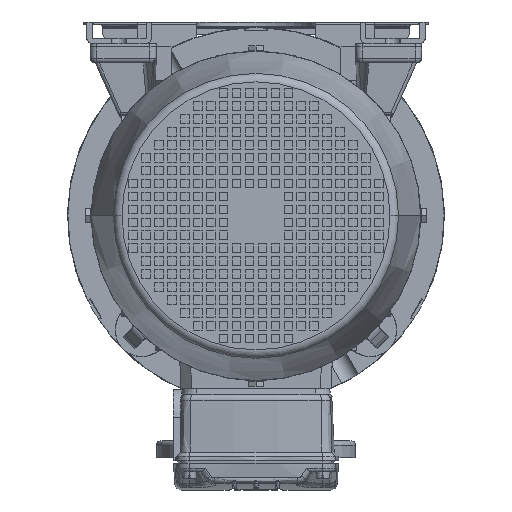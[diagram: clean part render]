
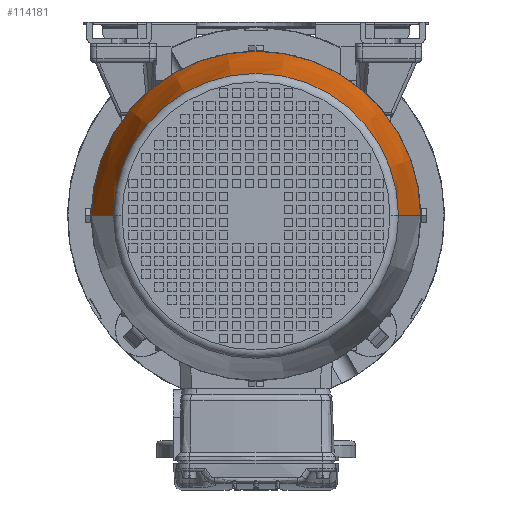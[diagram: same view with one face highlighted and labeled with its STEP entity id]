
A CAD part, front view. The second image highlights one B-rep face of the part: STEP entity #114181.
In plain terms, the highlighted conical face has half-angle 11 degrees and reference radius 132.258 mm.
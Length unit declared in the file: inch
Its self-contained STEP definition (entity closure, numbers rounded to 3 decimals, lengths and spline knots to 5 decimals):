
#10473 = AXIS2_PLACEMENT_3D ( 'NONE', #60133, #120233, #105463 ) ;
#17503 = DIRECTION ( 'NONE',  ( 0., 0., 1. ) ) ;
#20938 = EDGE_CURVE ( 'NONE', #99991, #35649, #76584, .T. ) ;
#22455 = LINE ( 'NONE', #159403, #96768 ) ;
#24424 = DIRECTION ( 'NONE',  ( 0.191, 0., 0.982 ) ) ;
#27686 = DIRECTION ( 'NONE',  ( 1., 0., 0. ) ) ;
#29053 = EDGE_LOOP ( 'NONE', ( #125686, #185799, #68319, #194793 ) ) ;
#35649 = VERTEX_POINT ( 'NONE', #179637 ) ;
#39838 = VERTEX_POINT ( 'NONE', #144933 ) ;
#60133 = CARTESIAN_POINT ( 'NONE',  ( 0., 0., -6.96516 ) ) ;
#62220 = VERTEX_POINT ( 'NONE', #108178 ) ;
#68319 = ORIENTED_EDGE ( 'NONE', *, *, #134853, .T. ) ;
#76584 = CIRCLE ( 'NONE', #10473, 6.01639 ) ;
#78296 = CONICAL_SURFACE ( 'NONE', #188380, 5.20702, 0.192 ) ;
#89674 = CARTESIAN_POINT ( 'NONE',  ( -6.01639, 0., -6.96516 ) ) ;
#96768 = VECTOR ( 'NONE', #24424, 39.37008 ) ;
#99991 = VERTEX_POINT ( 'NONE', #89674 ) ;
#105463 = DIRECTION ( 'NONE',  ( 1., 0., 0. ) ) ;
#108178 = CARTESIAN_POINT ( 'NONE',  ( -5.20702, 0., -11.12899 ) ) ;
#110029 = DIRECTION ( 'NONE',  ( -0.191, 0., 0.982 ) ) ;
#114181 = ADVANCED_FACE ( 'NONE', ( #161688 ), #78296, .T. ) ;
#116357 = CARTESIAN_POINT ( 'NONE',  ( 0., 0., -11.12899 ) ) ;
#118746 = EDGE_CURVE ( 'NONE', #62220, #39838, #130073, .T. ) ;
#119005 = DIRECTION ( 'NONE',  ( 1., 0., 0. ) ) ;
#120233 = DIRECTION ( 'NONE',  ( 0., 0., 1. ) ) ;
#125686 = ORIENTED_EDGE ( 'NONE', *, *, #176772, .F. ) ;
#130073 = CIRCLE ( 'NONE', #155297, 5.20702 ) ;
#133074 = DIRECTION ( 'NONE',  ( 0., 0., 1. ) ) ;
#134853 = EDGE_CURVE ( 'NONE', #39838, #35649, #22455, .T. ) ;
#144933 = CARTESIAN_POINT ( 'NONE',  ( 5.20702, 0., -11.12899 ) ) ;
#152434 = CARTESIAN_POINT ( 'NONE',  ( -5.20702, 0., -11.12899 ) ) ;
#153413 = LINE ( 'NONE', #152434, #169975 ) ;
#155297 = AXIS2_PLACEMENT_3D ( 'NONE', #165288, #17503, #119005 ) ;
#159403 = CARTESIAN_POINT ( 'NONE',  ( 5.20702, 0., -11.12899 ) ) ;
#161688 = FACE_OUTER_BOUND ( 'NONE', #29053, .T. ) ;
#165288 = CARTESIAN_POINT ( 'NONE',  ( 0., 0., -11.12899 ) ) ;
#169975 = VECTOR ( 'NONE', #110029, 39.37008 ) ;
#176772 = EDGE_CURVE ( 'NONE', #62220, #99991, #153413, .T. ) ;
#179637 = CARTESIAN_POINT ( 'NONE',  ( 6.01639, 0., -6.96516 ) ) ;
#185799 = ORIENTED_EDGE ( 'NONE', *, *, #118746, .T. ) ;
#188380 = AXIS2_PLACEMENT_3D ( 'NONE', #116357, #133074, #27686 ) ;
#194793 = ORIENTED_EDGE ( 'NONE', *, *, #20938, .F. ) ;
